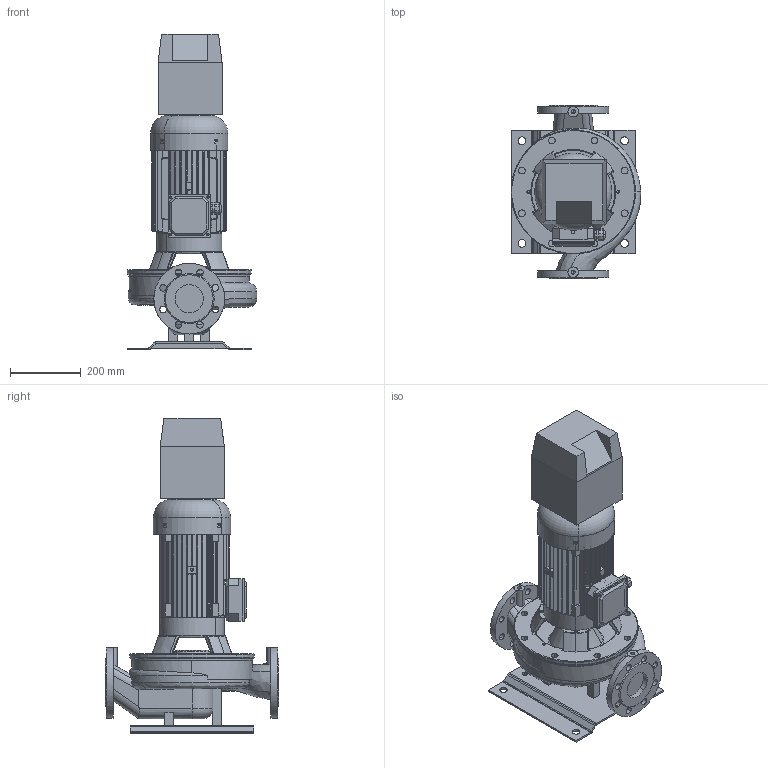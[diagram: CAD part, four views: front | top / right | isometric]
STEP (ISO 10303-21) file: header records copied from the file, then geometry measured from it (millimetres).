
FILE_DESCRIPTION(('STEP AP214'),'1');
FILE_NAME('export.stp','2018-08-08T14:00:02',(' '),(' '),'Spatial InterOp 3D',' ',' ');
FILE_SCHEMA(('AUTOMOTIVE_DESIGN { 1 0 10303 214 1 1 1 1 }'));
Length unit declared in the file: millimetre
Products named in the file (20): W_L80S4NC400KP; V_TLL50S80S; V_PPL80S; P100496; P100495; P100342; 440017; 440016; V_MKP112_2_F29; 480016; 480015; 440018; 440021; 480022; 480020; 480021; 480023; M25_Blind_Plug; M25_tiivisteholkk; NC_Size1
Assembly tree (20 placements, depth 4):
  W_L80S4NC400KP
    V_TLL50S80S
    V_PPL80S
    P100496
      P100495  x2
      P100342
    V_MKP112_2_F29
      440017
        440016
      480016
        480015
      440018
      440021
      480022
      480020
      480021
      480023
      M25_Blind_Plug
      M25_tiivisteholkk
    NC_Size1
Bounding box: 366.33 x 490 x 893.1 mm (x, y, z)
Volume: 21068000.8 mm3; surface area: 2494039.1 mm2
Topology: 16 solids, 16 shells, 1806 faces, 5054 edges, 3298 vertices
Faces by surface type: cylinder 847, plane 611, cone 140, torus 117, bspline 84, sphere 7
Entity records: 72632 total; most frequent: CARTESIAN_POINT 22561, ORIENTED_EDGE 10042, DIRECTION 9545, EDGE_CURVE 5021, AXIS2_PLACEMENT_3D 3660, VERTEX_POINT 3290, LINE 2225, VECTOR 2225
